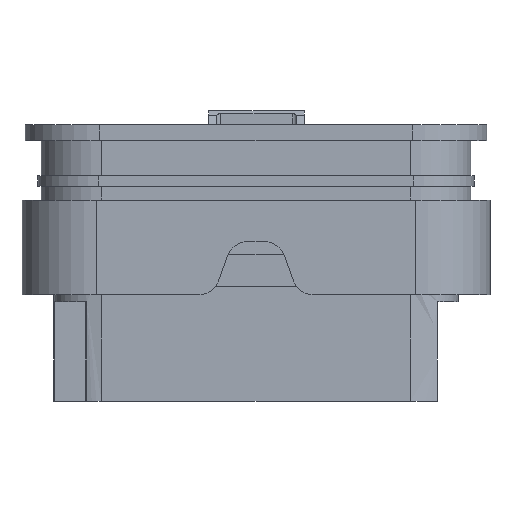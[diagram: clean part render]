
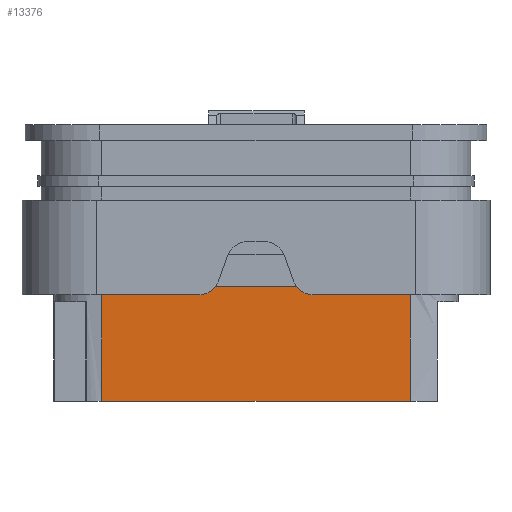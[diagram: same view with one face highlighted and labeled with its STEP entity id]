
A CAD part, left-side view. The second image highlights one B-rep face of the part: STEP entity #13376.
In plain terms, the highlighted planar face has unit normal (-1, 0, 0).
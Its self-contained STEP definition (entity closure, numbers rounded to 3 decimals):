
#12482=CARTESIAN_POINT('Axis2P3D Location',(-3.425,28.525,0.)) ;
#13090=CARTESIAN_POINT('Vertex',(-3.425,28.525,10.75)) ;
#13093=CARTESIAN_POINT('Line Origine',(-3.425,14.,10.75)) ;
#13097=CARTESIAN_POINT('Vertex',(-3.425,-0.525,10.75)) ;
#13314=CARTESIAN_POINT('Line Origine',(-3.425,-0.525,8.825)) ;
#13318=CARTESIAN_POINT('Vertex',(-3.425,-0.525,0.)) ;
#13358=CARTESIAN_POINT('Line Origine',(-3.425,28.525,5.375)) ;
#13362=CARTESIAN_POINT('Vertex',(-3.425,28.525,0.)) ;
#13365=CARTESIAN_POINT('Line Origine',(-3.425,14.,0.)) ;
#13095=VECTOR('Line Direction',#13094,1.) ;
#13316=VECTOR('Line Direction',#13315,1.) ;
#13360=VECTOR('Line Direction',#13359,1.) ;
#13367=VECTOR('Line Direction',#13366,1.) ;
#12483=DIRECTION('Axis2P3D Direction',(-1.,0.,0.)) ;
#12484=DIRECTION('Axis2P3D XDirection',(0.,-1.,0.)) ;
#13094=DIRECTION('Vector Direction',(0.,-1.,0.)) ;
#13315=DIRECTION('Vector Direction',(0.,0.,1.)) ;
#13359=DIRECTION('Vector Direction',(0.,0.,1.)) ;
#13366=DIRECTION('Vector Direction',(0.,-1.,0.)) ;
#12485=AXIS2_PLACEMENT_3D('Plane Axis2P3D',#12482,#12483,#12484) ;
#13096=LINE('Line',#13093,#13095) ;
#13317=LINE('Line',#13314,#13316) ;
#13361=LINE('Line',#13358,#13360) ;
#13368=LINE('Line',#13365,#13367) ;
#12486=PLANE('',#12485) ;
#13099=EDGE_CURVE('',#13091,#13098,#13096,.T.) ;
#13320=EDGE_CURVE('',#13319,#13098,#13317,.T.) ;
#13364=EDGE_CURVE('',#13363,#13091,#13361,.T.) ;
#13369=EDGE_CURVE('',#13363,#13319,#13368,.T.) ;
#13371=ORIENTED_EDGE('',*,*,#13364,.F.) ;
#13372=ORIENTED_EDGE('',*,*,#13369,.T.) ;
#13373=ORIENTED_EDGE('',*,*,#13320,.T.) ;
#13374=ORIENTED_EDGE('',*,*,#13099,.F.) ;
#13370=EDGE_LOOP('',(#13371,#13372,#13373,#13374)) ;
#13091=VERTEX_POINT('',#13090) ;
#13098=VERTEX_POINT('',#13097) ;
#13319=VERTEX_POINT('',#13318) ;
#13363=VERTEX_POINT('',#13362) ;
#13376=ADVANCED_FACE('805-587-541',(#13375),#12486,.T.) ;
#13375=FACE_OUTER_BOUND('',#13370,.T.) ;
